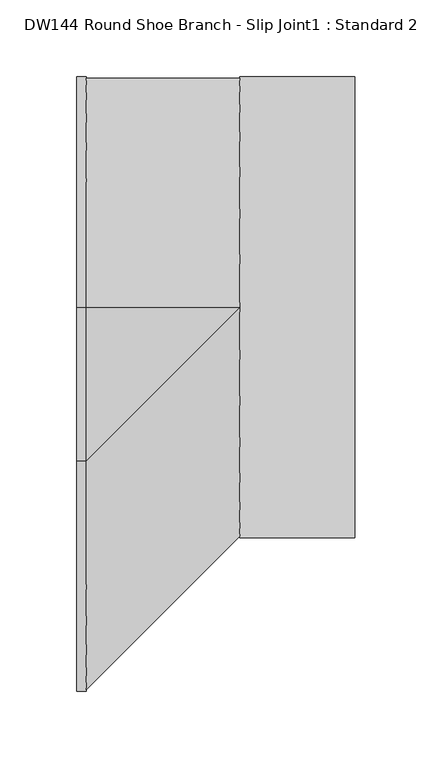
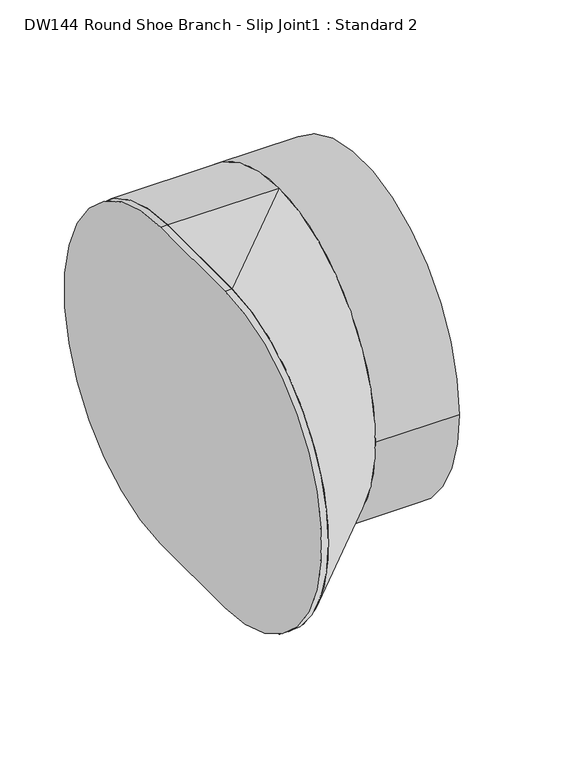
"""IFC4 building model written with IfcOpenShell, lengths in millimetres: duct fitting geometry, DW144 Round Shoe Branch - Slip Joint1 : Standard 2."""

from ifc_helpers import new_model, si_unit, point, frame, frame_2d, origin, origin_2d, place, context, project, spatial, polyline, circle_curve, trimmed, segment, composite_curve, outline, extrude, source, transform, mapped, element, save
from ifc_brep_helpers import plane_surface, cylinder_surface, extruded_surface, advanced_brep


def dw144_round_shoe_branch_slip_joint1_standard_2_54baf8e6(model_context):
    return source(origin(), model_context, "Body", "SolidModel", [
        extrude(outline(composite_curve([segment(trimmed(circle_curve(origin_2d(), 150.0), [point((-150.0, 0.0))], [point((150.0, 0.0))], False, "CARTESIAN"), True, "CONTINUOUS"), segment(trimmed(circle_curve(origin_2d(), 150.0), [point((150.0, 0.0))], [point((-150.0, 0.0))], False, "CARTESIAN"), True, "CONTINUOUS")], self_intersect=False)), frame((100.0, 0.0, 0.0), z_axis=(1.0, 0.0, 0.0), x_axis=(0.0, 1.0, 0.0)), (0.0, 0.0, 1.0), 75.0),
        advanced_brep(
        [(100.0, 0.0, -150.0), (100.0, 0.0, 150.0), (0.0, 0.0, -150.0), (0.0, -100.0, -150.0), (0.0, -100.0, 150.0), (0.0, 0.0, 150.0)],
        [
            (0, 1, circle_curve(frame((100.0, 0.0, 0.0), z_axis=(1.0, 0.0, 0.0), x_axis=(0.0, 1.0, 0.0)), 150.0)),
            (1, 0, circle_curve(frame((100.0, 0.0, 0.0), z_axis=(1.0, 0.0, 0.0), x_axis=(0.0, 1.0, 0.0)), 150.0)),
            (2, 3),
            (3, 4, circle_curve(frame((0.0, -100.0, 0.0), z_axis=(-1.0, 0.0, 0.0), x_axis=(0.0, 1.0, 0.0)), 150.0)),
            (4, 5),
            (5, 2, circle_curve(frame((0.0, 0.0, 0.0), z_axis=(-1.0, 0.0, 0.0), x_axis=(0.0, 1.0, 0.0)), 150.0)),
            (5, 1),
            (0, 2),
            (4, 1),
            (3, 0),
        ],
        [
            plane_surface(frame((100.0, 0.0, 0.0), z_axis=(1.0, 0.0, 0.0), x_axis=(0.0, 1.0, 0.0))),
            plane_surface(frame((0.0, -50.0, 0.0), z_axis=(-1.0, 0.0, 0.0), x_axis=(0.0, 1.0, 0.0))),
            cylinder_surface(frame((0.0, 0.0, 0.0), z_axis=(1.0, 0.0, 0.0), x_axis=(0.0, 1.0, 0.0)), 150.0),
            plane_surface(frame((0.0, -50.0, 150.0), z_axis=(0.0, 0.0, 1.0), x_axis=(0.0, -1.0, 0.0))),
            extruded_surface(trimmed(circle_curve(frame((0.0, -100.0, 0.0), z_axis=(1.0, 0.0, 0.0), x_axis=(0.0, 1.0, 0.0)), 150.0), [point((0.0, -100.0, 150.0))], [point((0.0, -100.0, -150.0))], True, "CARTESIAN"), (100.0, 100.0, 0.0), 141.4213562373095),
            plane_surface(frame((0.0, -50.0, -150.0), z_axis=(0.0, 0.0, -1.0), x_axis=(0.0, 1.0, 0.0))),
        ],
        [
            (0, [[1, 2]]),
            (1, [[3, 4, 5, 6]]),
            (2, [[-6, 7, -1, 8]]),
            (3, [[-5, 9, -7]]),
            (4, [[-4, 10, -2, -9]]),
            (5, [[-3, -8, -10]]),
        ],
    ),
        extrude(outline(composite_curve([segment(polyline([(0.0, -150.0), (-100.0, -150.0)]), True, "CONTINUOUS"), segment(trimmed(circle_curve(frame_2d((-100.0, 0.0)), 150.0), [point((-100.0, -150.0))], [point((-100.0, 150.0))], False, "CARTESIAN"), True, "CONTINUOUS"), segment(polyline([(-100.0, 150.0), (0.0, 150.0)]), True, "CONTINUOUS"), segment(trimmed(circle_curve(origin_2d(), 150.0), [point((0.0, 150.0))], [point((0.0, -150.0))], False, "CARTESIAN"), True, "CONTINUOUS")], self_intersect=False)), frame((-6.096, 0.0, 0.0), z_axis=(1.0, 0.0, 0.0), x_axis=(0.0, 1.0, 0.0)), (0.0, 0.0, 1.0), 6.096),
    ])


if __name__ == "__main__":
    model = new_model("IFC4")
    model_context = context("Model", 3, world=origin())
    ifc_project = project(units=[si_unit("LENGTHUNIT", "METRE", prefix="MILLI")], contexts=[model_context])
    site = spatial("IfcSite", under=ifc_project)
    building = spatial("IfcBuilding", under=site)
    placement = place(None, origin())
    dw144_round_shoe_branch_slip_joint1_standard_2_shape = dw144_round_shoe_branch_slip_joint1_standard_2_54baf8e6(model_context)
    element("IfcDuctFitting", 1, ObjectType="DW144 Round Shoe Branch - Slip Joint1 : Standard 2", at=placement, inside=building, context=model_context, shape_type="MappedRepresentation", body=[
        mapped(dw144_round_shoe_branch_slip_joint1_standard_2_shape, transform((0.0, 0.0, 0.0), x_axis=(1.0, 0.0, 0.0), y_axis=(0.0, 1.0, 0.0), z_axis=(0.0, 0.0, 1.0))),
    ])
    save(model, "model.ifc")
